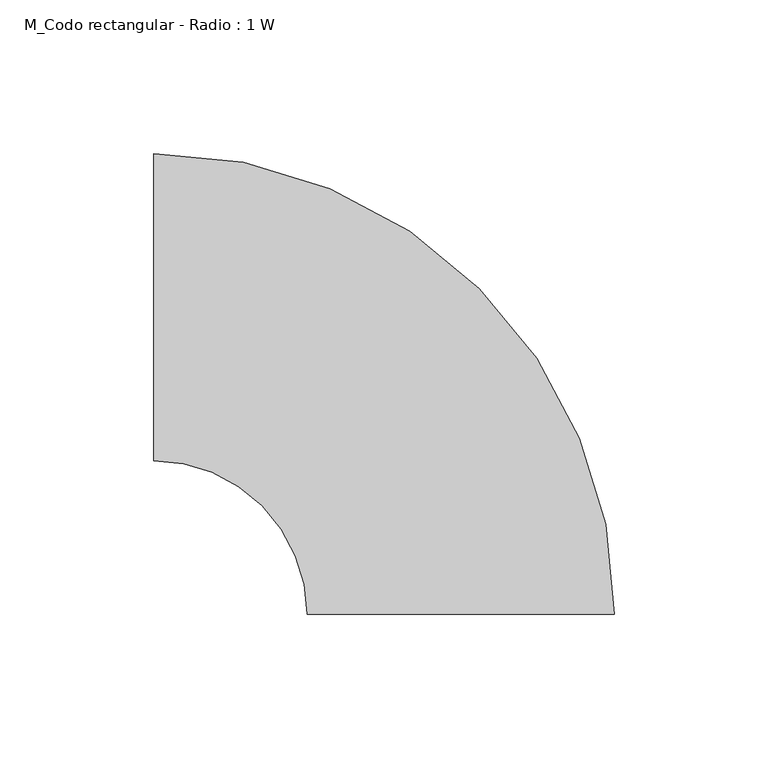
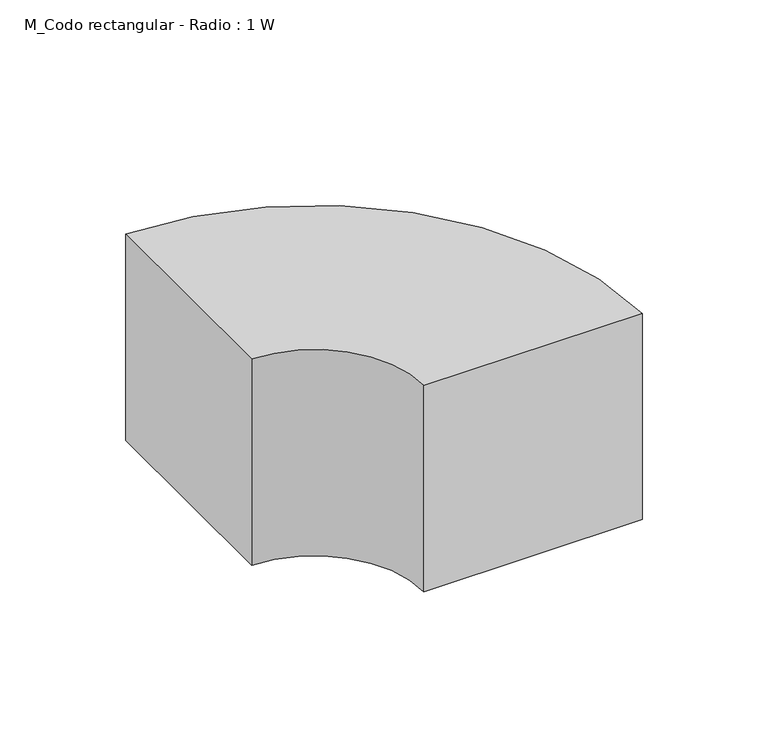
"""IFC4 building model written with IfcOpenShell, lengths in millimetres: duct fitting geometry, M_Codo rectangular - Radio : 1 W."""

from ifc_helpers import new_model, si_unit, point, frame, frame_2d, origin, place, context, project, spatial, polyline, circle_curve, trimmed, segment, composite_curve, outline, extrude, source, transform, mapped, element, save


def m_codo_rectangular_radio_1_w_b0cc2653(model_context):
    return source(origin(), model_context, "Body", "SweptSolid", [
        extrude(outline(composite_curve([segment(polyline([(50.0, -100.0), (-50.0, -100.0)]), True, "CONTINUOUS"), segment(trimmed(circle_curve(frame_2d((-100.0, -100.0)), 50.0), [point((-50.0, -100.0))], [point((-100.0, -50.0))], True, "CARTESIAN"), True, "CONTINUOUS"), segment(polyline([(-100.0, -50.0), (-100.0, 50.0)]), True, "CONTINUOUS"), segment(trimmed(circle_curve(frame_2d((-100.0, -100.0)), 150.0), [point((-100.0, 50.0))], [point((50.0, -100.0))], False, "CARTESIAN"), True, "CONTINUOUS")], self_intersect=False)), frame((0.0, 0.0, -50.0), z_axis=(0.0, 0.0, 1.0), x_axis=(1.0, 0.0, 0.0)), (0.0, 0.0, 1.0), 100.0),
    ])


if __name__ == "__main__":
    model = new_model("IFC4")
    model_context = context("Model", 3, world=origin())
    ifc_project = project(units=[si_unit("LENGTHUNIT", "METRE", prefix="MILLI")], contexts=[model_context])
    site = spatial("IfcSite", under=ifc_project)
    building = spatial("IfcBuilding", under=site)
    placement = place(None, origin())
    m_codo_rectangular_radio_1_w_shape = m_codo_rectangular_radio_1_w_b0cc2653(model_context)
    element("IfcDuctFitting", 1, ObjectType="M_Codo rectangular - Radio : 1 W", at=placement, inside=building, context=model_context, shape_type="MappedRepresentation", body=[
        mapped(m_codo_rectangular_radio_1_w_shape, transform((0.0, 0.0, 0.0), x_axis=(1.0, 0.0, 0.0), y_axis=(0.0, 1.0, 0.0), z_axis=(0.0, 0.0, 1.0))),
    ])
    save(model, "model.ifc")
